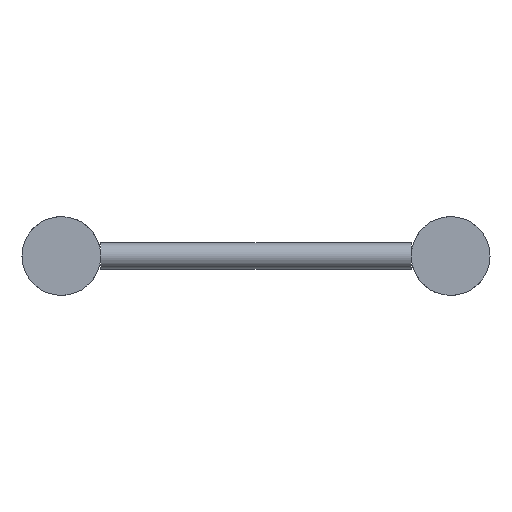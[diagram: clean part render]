
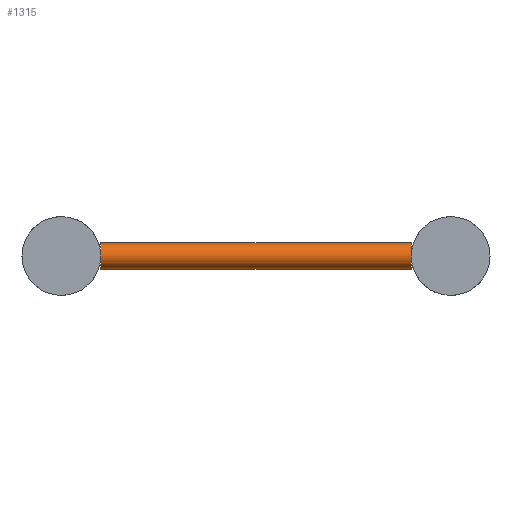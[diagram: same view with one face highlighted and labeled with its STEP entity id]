
A CAD part, left-side view. The second image highlights one B-rep face of the part: STEP entity #1315.
In plain terms, the highlighted cylindrical face has radius 8 mm (diameter 16 mm), a full revolution.
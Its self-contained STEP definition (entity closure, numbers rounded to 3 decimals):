
#241=FACE_BOUND('',#449,.T.);
#348=FACE_OUTER_BOUND('',#448,.T.);
#448=EDGE_LOOP('',(#993,#994));
#449=EDGE_LOOP('',(#995,#996));
#541=CIRCLE('',#1446,8.);
#542=CIRCLE('',#1448,8.);
#543=CIRCLE('',#1450,8.);
#544=CIRCLE('',#1452,8.);
#641=VERTEX_POINT('',#2247);
#642=VERTEX_POINT('',#2248);
#643=VERTEX_POINT('',#2252);
#644=VERTEX_POINT('',#2253);
#792=EDGE_CURVE('',#642,#641,#541,.T.);
#794=EDGE_CURVE('',#644,#643,#542,.T.);
#795=EDGE_CURVE('',#641,#642,#543,.T.);
#796=EDGE_CURVE('',#643,#644,#544,.T.);
#993=ORIENTED_EDGE('',*,*,#792,.T.);
#994=ORIENTED_EDGE('',*,*,#795,.T.);
#995=ORIENTED_EDGE('',*,*,#794,.T.);
#996=ORIENTED_EDGE('',*,*,#796,.T.);
#1159=CYLINDRICAL_SURFACE('',#1451,8.);
#1315=ADVANCED_FACE('',(#348,#241),#1159,.T.);
#1446=AXIS2_PLACEMENT_3D('',#2250,#1732,#1733);
#1448=AXIS2_PLACEMENT_3D('',#2255,#1737,#1738);
#1450=AXIS2_PLACEMENT_3D('',#2257,#1741,#1742);
#1451=AXIS2_PLACEMENT_3D('',#2258,#1743,#1744);
#1452=AXIS2_PLACEMENT_3D('',#2259,#1745,#1746);
#1732=DIRECTION('center_axis',(0.,1.,0.));
#1733=DIRECTION('ref_axis',(-1.,0.,0.));
#1737=DIRECTION('center_axis',(0.,-1.,0.));
#1738=DIRECTION('ref_axis',(-1.,0.,0.));
#1741=DIRECTION('center_axis',(0.,1.,0.));
#1742=DIRECTION('ref_axis',(-1.,0.,0.));
#1743=DIRECTION('center_axis',(0.,1.,0.));
#1744=DIRECTION('ref_axis',(-1.,0.,0.));
#1745=DIRECTION('center_axis',(0.,-1.,0.));
#1746=DIRECTION('ref_axis',(-1.,0.,0.));
#2247=CARTESIAN_POINT('',(52.,24.15,0.));
#2248=CARTESIAN_POINT('',(68.,24.15,0.));
#2250=CARTESIAN_POINT('Origin',(60.,24.15,0.));
#2252=CARTESIAN_POINT('',(52.,214.85,0.));
#2253=CARTESIAN_POINT('',(68.,214.85,0.));
#2255=CARTESIAN_POINT('Origin',(60.,214.85,0.));
#2257=CARTESIAN_POINT('Origin',(60.,24.15,0.));
#2258=CARTESIAN_POINT('Origin',(60.,119.5,0.));
#2259=CARTESIAN_POINT('Origin',(60.,214.85,0.));
